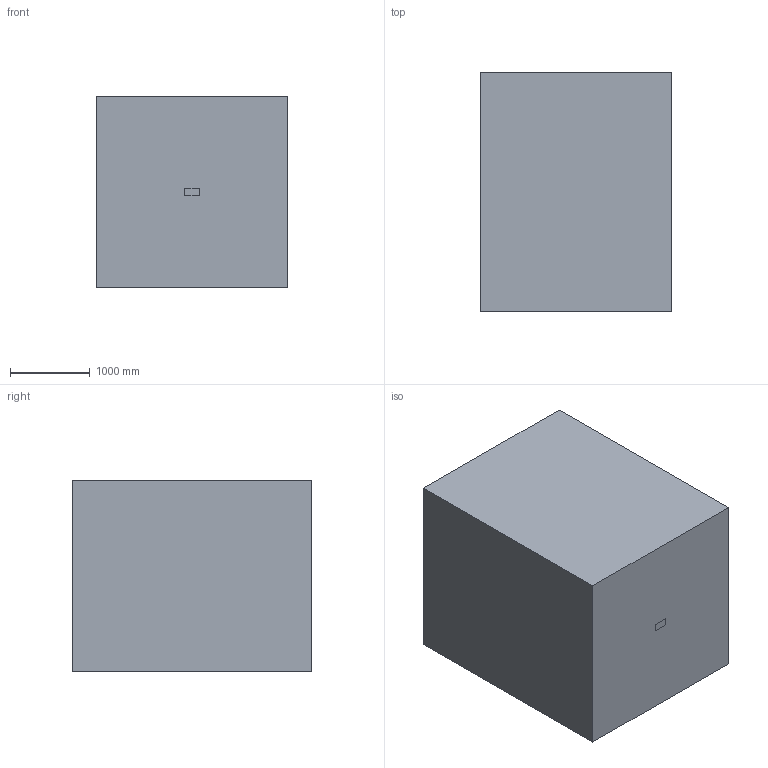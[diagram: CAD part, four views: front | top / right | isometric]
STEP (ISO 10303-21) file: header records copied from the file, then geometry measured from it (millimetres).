
FILE_DESCRIPTION(/* description */ (''),/* implementation_level */ '2;1');
FILE_NAME(/* name */ '10-8-8-5-2.5-2.5-2.5-2.5.step',/* time_stamp */ '2024-09-30T15:54:41-07:00',/* author */ (''),/* organization */ (''),/* preprocessor_version */ 'ST-DEVELOPER v20',/* originating_system */ 'Autodesk Translation Framework v13.20.0.188',/* authorisation */ '');
FILE_SCHEMA (('AUTOMOTIVE_DESIGN { 1 0 10303 214 3 1 1 }'));
Products named in the file (2): 10-8-8-5-2.5-2.5-2.5-2.5 CFD (PRINTED); 10-8-8-5-2.5-2.5-2.5-2.5 (TDM) Print Edits v3
Assembly tree (1 placements, depth 2):
  10-8-8-5-2.5-2.5-2.5-2.5 CFD (PRINTED)
    10-8-8-5-2.5-2.5-2.5-2.5 (TDM) Print Edits v3
Bounding box: 2400 x 3000 x 2400 mm (x, y, z)
Volume: 17279444655.4 mm3; surface area: 42046174.2 mm2
Topology: 9 solids, 9 shells, 5242 faces, 13072 edges, 7852 vertices
Faces by surface type: plane 5242
Entity records: 151817 total; most frequent: CARTESIAN_POINT 26169, ORIENTED_EDGE 26144, DIRECTION 23562, LINE 13072, VECTOR 13072, EDGE_CURVE 13072, VERTEX_POINT 7852, EDGE_LOOP 6536
